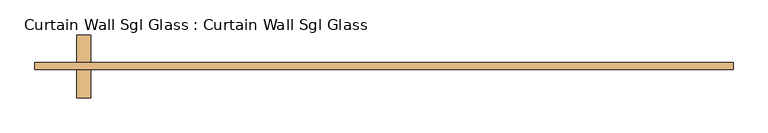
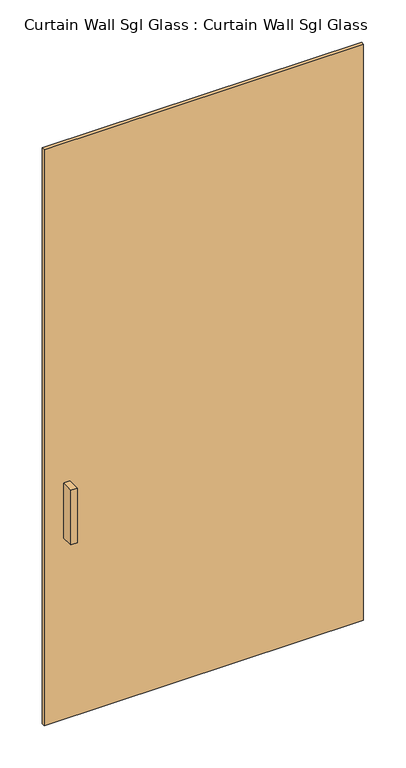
"""IFC4 building model written with IfcOpenShell, lengths in millimetres: door geometry, Curtain Wall Sgl Glass : Curtain Wall Sgl Glass."""

import ifcopenshell
import ifcopenshell.guid

model = None  # the IFC model being written
_history = None  # IfcOwnerHistory: only IFC2X3 demands one
_inside = {}  # id of a spatial element -> (the spatial element, [elements in it])
_under = {}  # id of a project, library or spatial element -> (it, [spatial elements below it])
_declared = {}  # id of a project -> (the project, [libraries it declares])
_typed = {}  # id of a type object -> (the type object, [elements of that type])
_made_of = {}  # id of a material, layer set ... -> (it, [elements and type objects made of it])


def new_model(schema):
    """Start an empty IFC model of exactly this schema.

    Asked for "IFC4X3", IfcOpenShell would pick the latest addendum, in which some entities
    have other attributes; the version numbers below select the first issue.
    IFC2X3 requires an IfcOwnerHistory on every rooted entity: one is made here for all.
    """
    global model, _history
    if schema == "IFC4X3":
        model = ifcopenshell.file(schema_version=(4, 3, 0, 0))
    else:
        model = ifcopenshell.file(schema=schema)
    _inside.clear()
    _under.clear()
    _declared.clear()
    _typed.clear()
    _made_of.clear()
    _history = None
    if model.schema == "IFC2X3":
        org = make("IfcOrganization", Name="unknown")
        user = make(
            "IfcPersonAndOrganization",
            ThePerson=make("IfcPerson", FamilyName="unknown"),
            TheOrganization=org,
        )
        app = make(
            "IfcApplication",
            ApplicationDeveloper=org,
            Version="unknown",
            ApplicationFullName="unknown",
            ApplicationIdentifier="unknown",
        )
        _history = make(
            "IfcOwnerHistory",
            OwningUser=user,
            OwningApplication=app,
            ChangeAction="ADDED",
            CreationDate=0,
        )
    return model


def make(cls, **values):
    """One entity of the class cls with the attributes given. An attribute that is None is left unset."""
    return model.create_entity(
        cls, **{name: value for name, value in values.items() if value is not None}
    )


def rooted(cls, **values):
    """An entity with a GlobalId (a new one), such as an element, a storey or a relation."""
    return make(cls, GlobalId=ifcopenshell.guid.new(), OwnerHistory=_history, **values)


def si_unit(unit_type, name, prefix=None):
    """IfcSIUnit, for example si_unit("LENGTHUNIT", "METRE", prefix="MILLI")."""
    return make("IfcSIUnit", UnitType=unit_type, Prefix=prefix, Name=name)


def assignment(units):
    """IfcUnitAssignment: the units of a project."""
    return None if units is None else make("IfcUnitAssignment", Units=units)


def point(xyz):
    """IfcCartesianPoint."""
    return None if xyz is None else make("IfcCartesianPoint", Coordinates=xyz)


def direction(xyz):
    """IfcDirection."""
    return None if xyz is None else make("IfcDirection", DirectionRatios=xyz)


def frame(location, z_axis=None, x_axis=None):
    """IfcAxis2Placement3D, a coordinate frame: its origin and axes. An axis left out is left unset."""
    return make(
        "IfcAxis2Placement3D",
        Location=point(location),
        Axis=direction(z_axis),
        RefDirection=direction(x_axis),
    )


def origin():
    """The frame at (0, 0, 0) with its axes left unset."""
    return frame((0.0, 0.0, 0.0))


def origin_with_axes():
    """The frame at (0, 0, 0) with the z axis (0, 0, 1) and the x axis (1, 0, 0) written out."""
    return frame((0.0, 0.0, 0.0), z_axis=(0.0, 0.0, 1.0), x_axis=(1.0, 0.0, 0.0))


def place(relative_to, where):
    """IfcLocalPlacement: puts the frame where relative to a parent placement (None: the world)."""
    return make(
        "IfcLocalPlacement", PlacementRelTo=relative_to, RelativePlacement=where
    )


def context(
    kind, dimensions, precision=None, world=None, true_north=None, identifier=None
):
    """IfcGeometricRepresentationContext, for example the 3D "Model" context."""
    return make(
        "IfcGeometricRepresentationContext",
        ContextIdentifier=identifier,
        ContextType=kind,
        CoordinateSpaceDimension=dimensions,
        Precision=precision,
        WorldCoordinateSystem=world,
        TrueNorth=true_north,
    )


def project(units=None, contexts=None):
    """IfcProject with its units and contexts."""
    return rooted(
        "IfcProject",
        Name="project",
        RepresentationContexts=contexts,
        UnitsInContext=assignment(units),
    )


def spatial(cls, under=None, at=None, **own):
    """A site, building, storey or space (cls), placed at a placement, below another one or the project."""
    s = rooted(cls, ObjectPlacement=at, **own)
    if under is not None:
        _under.setdefault(under.id(), (under, []))[1].append(s)
    return s


def polyline(points):
    """IfcPolyline through the points."""
    return make("IfcPolyline", Points=[point(p) for p in points])


def outline(outer, holes=None, kind="AREA"):
    """IfcArbitraryClosedProfileDef: a profile drawn as a closed curve; with holes, ...WithVoids."""
    if holes is None:
        return make("IfcArbitraryClosedProfileDef", ProfileType=kind, OuterCurve=outer)
    return make(
        "IfcArbitraryProfileDefWithVoids",
        ProfileType=kind,
        OuterCurve=outer,
        InnerCurves=holes,
    )


def extrude(swept, where, along, depth):
    """IfcExtrudedAreaSolid: the profile swept, set in the frame where, extruded along a direction by depth."""
    return make(
        "IfcExtrudedAreaSolid",
        SweptArea=swept,
        Position=where,
        ExtrudedDirection=direction(along),
        Depth=depth,
    )


def shape(context_of_items, identifier, shape_type, items):
    """IfcShapeRepresentation: the items that make up one representation, for example the "Body"."""
    return make(
        "IfcShapeRepresentation",
        ContextOfItems=context_of_items,
        RepresentationIdentifier=identifier,
        RepresentationType=shape_type,
        Items=items,
    )


def source(mapping_origin, context_of_items, identifier, shape_type, items):
    """IfcRepresentationMap: a shape defined once, which mapped items show again and again."""
    return make(
        "IfcRepresentationMap",
        MappingOrigin=mapping_origin,
        MappedRepresentation=shape(context_of_items, identifier, shape_type, items),
    )


def transform(
    local_origin,
    x_axis=None,
    y_axis=None,
    z_axis=None,
    scale=None,
    scale2=None,
    scale3=None,
    uniform=True,
):
    """IfcCartesianTransformationOperator3D, or its non-uniform kind. x_axis, y_axis, z_axis: its Axis1, 2, 3."""
    if uniform:
        return make(
            "IfcCartesianTransformationOperator3D",
            Axis1=direction(x_axis),
            Axis2=direction(y_axis),
            LocalOrigin=point(local_origin),
            Scale=scale,
            Axis3=direction(z_axis),
        )
    return make(
        "IfcCartesianTransformationOperator3DnonUniform",
        Axis1=direction(x_axis),
        Axis2=direction(y_axis),
        LocalOrigin=point(local_origin),
        Scale=scale,
        Axis3=direction(z_axis),
        Scale2=scale2,
        Scale3=scale3,
    )


def mapped(mapping_source, mapping_target):
    """IfcMappedItem: shows the shape of a source again, moved by a transform."""
    return make(
        "IfcMappedItem", MappingSource=mapping_source, MappingTarget=mapping_target
    )


def made_of(thing, what):
    """Note that an element or type object is made of a material, layer set ...; save() writes the relation."""
    if what is not None:
        _made_of.setdefault(what.id(), (what, []))[1].append(thing)
    return thing


def element(
    cls,
    number,
    at=None,
    inside=None,
    cuts=None,
    type_object=None,
    material=None,
    context=None,
    identifier="Body",
    shape_type=None,
    held_by="IfcProductDefinitionShape",
    body=None,
    shapes=None,
    **own,
):
    """One element of the class cls, such as IfcWall. Its Tag is "e" and its number.

    at: its placement. inside: the storey or other place that contains it. cuts: it is an
    opening in that element (IfcRelVoidsElement). A single representation is given by context,
    identifier, shape_type and body (its items); several are given by shapes. held_by: the class
    of the entity that holds the representations. save() writes the other relations.
    """
    e = rooted(cls, Tag="e%d" % number, ObjectPlacement=at, **own)
    if body is not None:
        shapes = [shape(context, identifier, shape_type, body)]
    if shapes is not None:
        e.Representation = make(held_by, Representations=shapes)
    if inside is not None:
        _inside.setdefault(inside.id(), (inside, []))[1].append(e)
    if cuts is not None:
        rooted(
            "IfcRelVoidsElement", RelatingBuildingElement=cuts, RelatedOpeningElement=e
        )
    if type_object is not None:
        _typed.setdefault(type_object.id(), (type_object, []))[1].append(e)
    return made_of(e, material)


def aggregate(whole, parts):
    """IfcRelAggregates: a whole, such as a stair, and the parts it consists of."""
    return rooted("IfcRelAggregates", RelatingObject=whole, RelatedObjects=parts)


def save(model, path):
    """Write the relations noted so far, then the file.

    IfcRelAggregates (storeys below a building ...), IfcRelContainedInSpatialStructure (elements
    in a storey), IfcRelDefinesByType, IfcRelAssociatesMaterial and IfcRelDeclares: one each for
    every whole, place, type object, material and project.
    """
    for whole, parts in _under.values():
        aggregate(whole, parts)
    for where, things in _inside.values():
        rooted(
            "IfcRelContainedInSpatialStructure",
            RelatedElements=things,
            RelatingStructure=where,
        )
    for kind, things in _typed.values():
        rooted("IfcRelDefinesByType", RelatedObjects=things, RelatingType=kind)
    for what, things in _made_of.values():
        rooted("IfcRelAssociatesMaterial", RelatedObjects=things, RelatingMaterial=what)
    for by, libraries in _declared.values():
        rooted("IfcRelDeclares", RelatingContext=by, RelatedDefinitions=libraries)
    model.write(path)


def curtain_wall_sgl_glass_curtain_wall_sgl_glass_6e947e4e(model_context):
    return source(origin(), model_context, "Body", "SweptSolid", [
        extrude(outline(polyline([(-531.1777778, -12.7), (-556.5777778, -12.7), (-556.5777778, 38.1), (-531.1777778, 38.1), (-531.1777778, -12.7)])), frame((0.0, 0.0, 762.0), z_axis=(0.0, 0.0, 1.0), x_axis=(1.0, 0.0, 0.0)), (0.0, 0.0, 1.0), 228.6),
        extrude(outline(polyline([(-556.5777778, 101.6), (-531.1777778, 101.6), (-531.1777778, 50.8), (-556.5777778, 50.8), (-556.5777778, 101.6)])), frame((0.0, 0.0, 762.0), z_axis=(0.0, 0.0, 1.0), x_axis=(1.0, 0.0, 0.0)), (0.0, 0.0, 1.0), 228.6),
        extrude(outline(polyline([(632.7777778, 50.8), (632.7777778, 38.1), (-632.7777778, 38.1), (-632.7777778, 50.8), (632.7777778, 50.8)])), origin_with_axes(), (0.0, 0.0, 1.0), 2413.4),
    ])


if __name__ == "__main__":
    model = new_model("IFC4")
    model_context = context("Model", 3, world=origin())
    ifc_project = project(units=[si_unit("LENGTHUNIT", "METRE", prefix="MILLI")], contexts=[model_context])
    site = spatial("IfcSite", under=ifc_project)
    building = spatial("IfcBuilding", under=site)
    placement = place(None, origin())
    curtain_wall_sgl_glass_curtain_wall_sgl_glass_shape = curtain_wall_sgl_glass_curtain_wall_sgl_glass_6e947e4e(model_context)
    element("IfcDoor", 1, ObjectType="Curtain Wall Sgl Glass : Curtain Wall Sgl Glass", at=placement, inside=building, context=model_context, shape_type="MappedRepresentation", body=[
        mapped(curtain_wall_sgl_glass_curtain_wall_sgl_glass_shape, transform((0.0, 0.0, 0.0), x_axis=(1.0, 0.0, 0.0), y_axis=(0.0, 1.0, 0.0), z_axis=(0.0, 0.0, 1.0))),
    ])
    save(model, "model.ifc")
